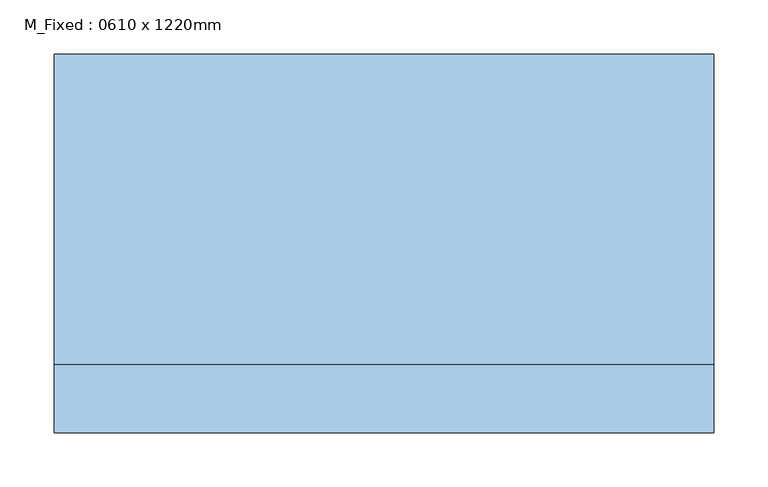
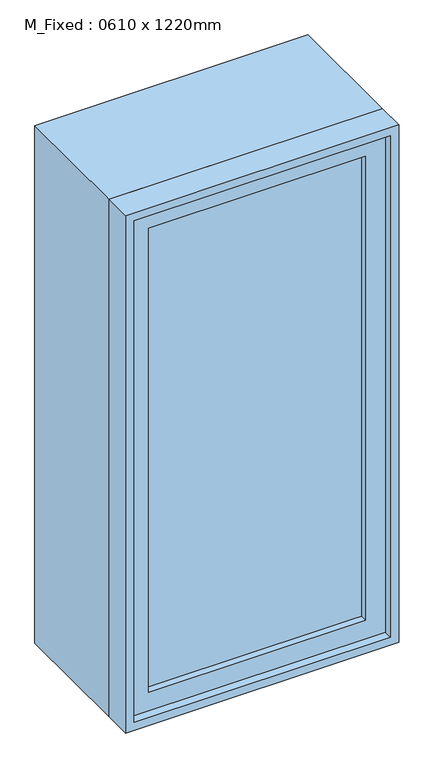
"""IFC4 building model written with IfcOpenShell, lengths in millimetres: window geometry, M_Fixed : 0610 x 1220mm."""

from ifc_helpers import new_model, si_unit, frame, origin, place, context, project, spatial, polyline, outline, extrude, source, transform, mapped, element, save


def m_fixed_0610_x_1220mm_1ea27827(model_context):
    return source(origin(), model_context, "Body", "SweptSolid", [
        extrude(outline(polyline([(-242.0, -153.0), (-242.0, -141.0), (242.0, -141.0), (242.0, -153.0), (-242.0, -153.0)])), frame((0.0, 0.0, 978.0), z_axis=(0.0, 0.0, 1.0), x_axis=(1.0, 0.0, 0.0)), (0.0, 0.0, 1.0), 1094.0),
        extrude(outline(polyline([(2116.0, -286.0), (934.0, -286.0), (934.0, 286.0), (2116.0, 286.0), (2116.0, -286.0)]), holes=[polyline([(2072.0, -242.0), (2072.0, 242.0), (978.0, 242.0), (978.0, -242.0), (2072.0, -242.0)])]), frame((0.0, -169.0, 0.0), z_axis=(0.0, 1.0, 0.0), x_axis=(0.0, 0.0, 1.0)), (0.0, 0.0, 1.0), 44.0),
        extrude(outline(polyline([(2135.0, -305.0), (915.0, -305.0), (915.0, 305.0), (2135.0, 305.0), (2135.0, -305.0)]), holes=[polyline([(2116.0, -286.0), (2116.0, 286.0), (934.0, 286.0), (934.0, -286.0), (2116.0, -286.0)])]), frame((0.0, -188.0, 0.0), z_axis=(0.0, 1.0, 0.0), x_axis=(0.0, 0.0, 1.0)), (0.0, 0.0, 1.0), 63.0),
        extrude(outline(polyline([(2135.0, -305.0), (915.0, -305.0), (915.0, 305.0), (2135.0, 305.0), (2135.0, -305.0)]), holes=[polyline([(2103.0, -273.0), (2103.0, 273.0), (947.0, 273.0), (947.0, -273.0), (2103.0, -273.0)])]), frame((0.0, -125.0, 0.0), z_axis=(0.0, 1.0, 0.0), x_axis=(0.0, 0.0, 1.0)), (0.0, 0.0, 1.0), 287.0),
    ])


if __name__ == "__main__":
    model = new_model("IFC4")
    model_context = context("Model", 3, world=origin())
    ifc_project = project(units=[si_unit("LENGTHUNIT", "METRE", prefix="MILLI")], contexts=[model_context])
    site = spatial("IfcSite", under=ifc_project)
    building = spatial("IfcBuilding", under=site)
    placement = place(None, origin())
    m_fixed_0610_x_1220mm_shape = m_fixed_0610_x_1220mm_1ea27827(model_context)
    element("IfcWindow", 1, ObjectType="M_Fixed : 0610 x 1220mm", at=placement, inside=building, context=model_context, shape_type="MappedRepresentation", body=[
        mapped(m_fixed_0610_x_1220mm_shape, transform((0.0, 0.0, 0.0), x_axis=(1.0, 0.0, 0.0), y_axis=(0.0, 1.0, 0.0), z_axis=(0.0, 0.0, 1.0))),
    ])
    save(model, "model.ifc")
